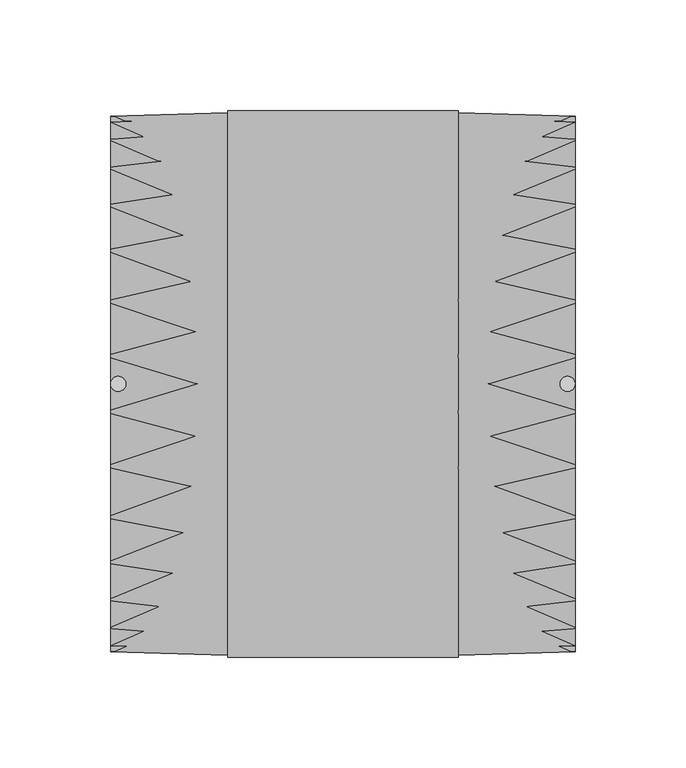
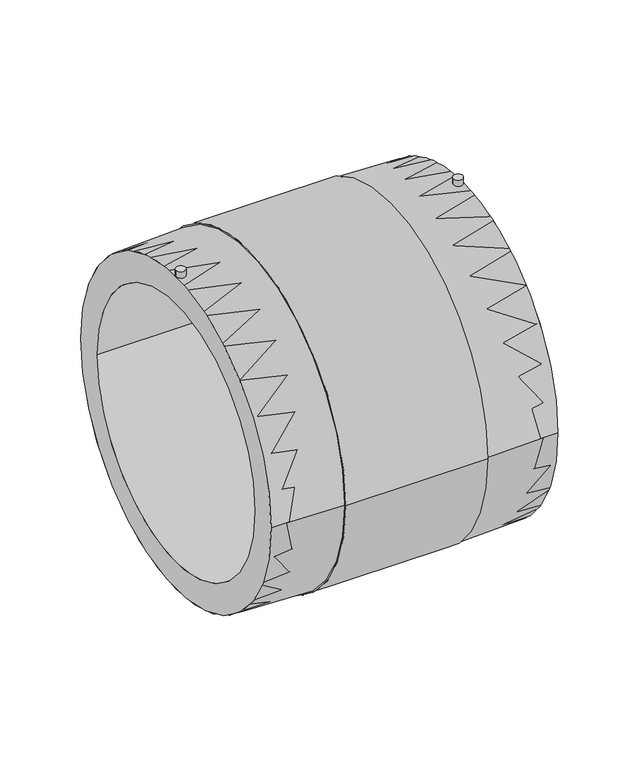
"""IFC4 building model written with IfcOpenShell, lengths in millimetres: pipe fitting geometry, EGB_VASEN_ PPR_Manguito electrosoldable WXRD100 : Manguito electrosoldable WXRD100."""

from ifc_helpers import new_model, si_unit, point, frame, frame_2d, origin, origin_2d, place, context, project, spatial, polyline, circle_curve, trimmed, segment, composite_curve, outline, extrude, source, transform, mapped, element, save
from ifc_brep_helpers import plane_surface, cylinder_surface, revolved_surface, advanced_brep


def pipe_fitting_d66989f7(model_context):
    return source(origin(), model_context, "Body", "SolidModel", [
        extrude(outline(composite_curve([segment(trimmed(circle_curve(origin_2d(), 121.0), [point((-121.0, 0.0))], [point((121.0, 0.0))], False, "CARTESIAN"), True, "CONTINUOUS"), segment(trimmed(circle_curve(origin_2d(), 121.0), [point((121.0, 0.0))], [point((-121.0, 0.0))], False, "CARTESIAN"), True, "CONTINUOUS")], self_intersect=False), holes=[composite_curve([segment(trimmed(circle_curve(origin_2d(), 100.0), [point((-100.0, 0.0))], [point((100.0, 0.0))], True, "CARTESIAN"), True, "CONTINUOUS"), segment(trimmed(circle_curve(origin_2d(), 100.0), [point((100.0, 0.0))], [point((-100.0, 0.0))], True, "CARTESIAN"), True, "CONTINUOUS")], self_intersect=False)]), frame((-105.0, 0.0, 0.0), z_axis=(1.0, 0.0, 0.0), x_axis=(0.0, 1.0, 0.0)), (0.0, 0.0, 1.0), 210.0),
        extrude(outline(composite_curve([segment(trimmed(circle_curve(frame_2d((-101.5878802, 0.0)), 3.4121198), [point((-105.0, 0.0))], [point((-98.1757605, 0.0))], False, "CARTESIAN"), True, "CONTINUOUS"), segment(trimmed(circle_curve(frame_2d((-101.5878802, 0.0)), 3.4121198), [point((-98.1757605, 0.0))], [point((-105.0, 0.0))], False, "CARTESIAN"), True, "CONTINUOUS")], self_intersect=False)), frame((0.0, 0.0, 102.0), z_axis=(0.0, 0.0, 1.0), x_axis=(1.0, 0.0, 0.0)), (0.0, 0.0, 1.0), 24.0),
        extrude(outline(composite_curve([segment(trimmed(circle_curve(frame_2d((101.5878802, 0.0)), 3.4121198), [point((98.1757605, 0.0))], [point((105.0, 0.0))], False, "CARTESIAN"), True, "CONTINUOUS"), segment(trimmed(circle_curve(frame_2d((101.5878802, 0.0)), 3.4121198), [point((105.0, 0.0))], [point((98.1757605, 0.0))], False, "CARTESIAN"), True, "CONTINUOUS")], self_intersect=False)), frame((0.0, 0.0, 102.0), z_axis=(0.0, 0.0, 1.0), x_axis=(1.0, 0.0, 0.0)), (0.0, 0.0, 1.0), 24.0),
        advanced_brep(
        [(52.1, -122.582849, 0.0), (52.1, 122.582849, 0.0), (105.0, 121.0, 0.0), (105.0, -121.0, 0.0), (52.1, -123.582849, 0.0), (52.1, 123.582849, 0.0), (-52.1, -123.582849, 0.0), (-52.1, 123.582849, 0.0), (-52.1, -122.582849, 0.0), (-52.1, 122.582849, 0.0), (-105.0, -121.0, 0.0), (-105.0, 121.0, 0.0)],
        [
            (0, 1, circle_curve(frame((52.1, 0.0, 0.0), z_axis=(1.0, 0.0, 0.0), x_axis=(0.0, 1.0, 0.0)), 122.582849)),
            (1, 2),
            (2, 3, circle_curve(frame((105.0, 0.0, 0.0), z_axis=(-1.0, 0.0, 0.0), x_axis=(0.0, 1.0, 0.0)), 121.0)),
            (3, 0),
            (1, 0, circle_curve(frame((52.1, 0.0, 0.0), z_axis=(1.0, 0.0, 0.0), x_axis=(0.0, 1.0, 0.0)), 122.582849)),
            (3, 2, circle_curve(frame((105.0, 0.0, 0.0), z_axis=(-1.0, 0.0, 0.0), x_axis=(0.0, 1.0, 0.0)), 121.0)),
            (4, 5, circle_curve(frame((52.1, 0.0, 0.0), z_axis=(1.0, 0.0, 0.0), x_axis=(0.0, 1.0, 0.0)), 123.582849)),
            (5, 1),
            (0, 4),
            (5, 4, circle_curve(frame((52.1, 0.0, 0.0), z_axis=(1.0, 0.0, 0.0), x_axis=(0.0, 1.0, 0.0)), 123.582849)),
            (6, 7, circle_curve(frame((-52.1, 0.0, 0.0), z_axis=(1.0, 0.0, 0.0), x_axis=(0.0, 1.0, 0.0)), 123.582849)),
            (7, 5),
            (4, 6),
            (7, 6, circle_curve(frame((-52.1, 0.0, 0.0), z_axis=(1.0, 0.0, 0.0), x_axis=(0.0, 1.0, 0.0)), 123.582849)),
            (8, 9, circle_curve(frame((-52.1, 0.0, 0.0), z_axis=(1.0, 0.0, 0.0), x_axis=(0.0, 1.0, 0.0)), 122.582849)),
            (9, 7),
            (6, 8),
            (9, 8, circle_curve(frame((-52.1, 0.0, 0.0), z_axis=(1.0, 0.0, 0.0), x_axis=(0.0, 1.0, 0.0)), 122.582849)),
            (10, 11, circle_curve(frame((-105.0, 0.0, 0.0), z_axis=(1.0, 0.0, 0.0), x_axis=(0.0, 1.0, 0.0)), 121.0)),
            (11, 9),
            (8, 10),
            (11, 10, circle_curve(frame((-105.0, 0.0, 0.0), z_axis=(1.0, 0.0, 0.0), x_axis=(0.0, 1.0, 0.0)), 121.0)),
            (2, 11),
            (10, 3),
        ],
        [
            revolved_surface(polyline([(105.0, 121.0, 0.0), (52.1, 122.582849, 0.0)]), (-98.7721997, 0.0, 0.0), (-1.0, 0.0, 0.0)),
            plane_surface(frame((52.1, 0.0, 0.0), z_axis=(1.0, 0.0, 0.0), x_axis=(0.0, 1.0, 0.0))),
            cylinder_surface(frame((-98.7721997, 0.0, 0.0), z_axis=(-1.0, 0.0, 0.0), x_axis=(0.0, 1.0, 0.0)), 123.582849),
            plane_surface(frame((-52.1, 0.0, 0.0), z_axis=(-1.0, 0.0, 0.0), x_axis=(0.0, 1.0, 0.0))),
            revolved_surface(polyline([(-52.1, 122.582849, 0.0), (-105.0, 121.0, 0.0)]), (-98.7721997, 0.0, 0.0), (-1.0, 0.0, 0.0)),
            revolved_surface(polyline([(-105.0, 121.0, 0.0), (104.99999999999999, 121.0, 0.0)]), (-98.7721997, 0.0, 0.0), (-1.0, 0.0, 0.0)),
        ],
        [
            (0, [[1, 2, 3, 4]]),
            (0, [[5, -4, 6, -2]]),
            (1, [[7, 8, -1, 9]]),
            (1, [[10, -9, -5, -8]]),
            (2, [[11, 12, -7, 13]]),
            (2, [[14, -13, -10, -12]]),
            (3, [[15, 16, -11, 17]]),
            (3, [[18, -17, -14, -16]]),
            (4, [[19, 20, -15, 21]]),
            (4, [[22, -21, -18, -20]]),
            (5, [[-3, 23, -19, 24]]),
            (5, [[-6, -24, -22, -23]]),
        ],
    ),
    ])


if __name__ == "__main__":
    model = new_model("IFC4")
    model_context = context("Model", 3, world=origin())
    ifc_project = project(units=[si_unit("LENGTHUNIT", "METRE", prefix="MILLI")], contexts=[model_context])
    site = spatial("IfcSite", under=ifc_project)
    building = spatial("IfcBuilding", under=site)
    placement = place(None, origin())
    pipe_fitting_shape = pipe_fitting_d66989f7(model_context)
    element("IfcPipeFitting", 1, ObjectType="EGB_VASEN_ PPR_Manguito electrosoldable WXRD100 : Manguito electrosoldable WXRD100", at=placement, inside=building, context=model_context, shape_type="MappedRepresentation", body=[
        mapped(pipe_fitting_shape, transform((0.0, 0.0, 0.0), x_axis=(1.0, 0.0, 0.0), y_axis=(0.0, 1.0, 0.0), z_axis=(0.0, 0.0, 1.0))),
    ])
    save(model, "model.ifc")
